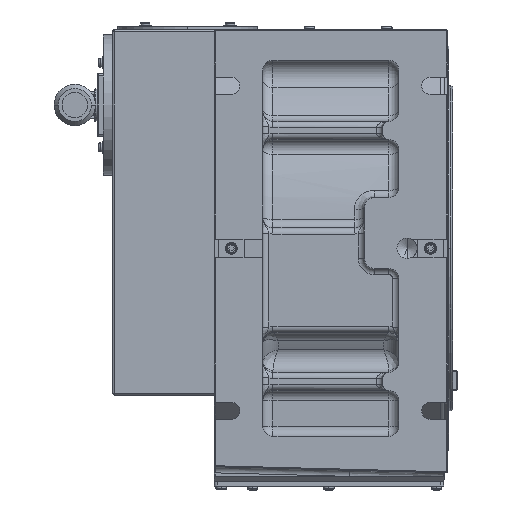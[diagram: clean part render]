
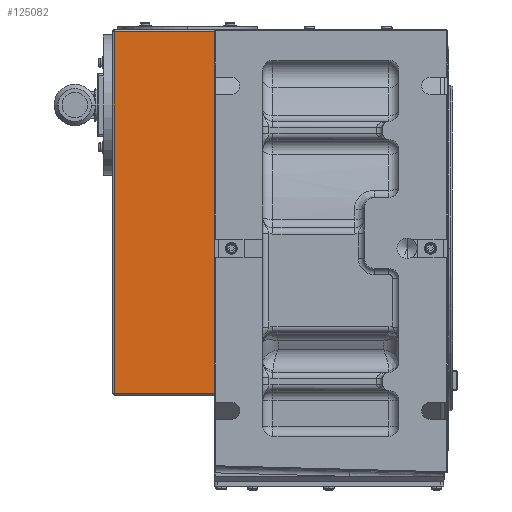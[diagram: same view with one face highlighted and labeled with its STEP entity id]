
A CAD part, front view. The second image highlights one B-rep face of the part: STEP entity #125082.
In plain terms, the highlighted planar face has unit normal (0, -1, 0).
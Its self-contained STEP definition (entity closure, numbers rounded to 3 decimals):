
#1747 = LINE ( 'NONE', #16184, #72102 ) ;
#3624 = CARTESIAN_POINT ( 'NONE',  ( -265., 230., -143. ) ) ;
#7660 = EDGE_CURVE ( 'NONE', #115943, #83340, #1747, .T. ) ;
#9714 = EDGE_CURVE ( 'NONE', #153304, #115943, #36032, .T. ) ;
#10952 = VECTOR ( 'NONE', #83282, 1000. ) ;
#16184 = CARTESIAN_POINT ( 'NONE',  ( -265., 230., 215. ) ) ;
#18023 = VECTOR ( 'NONE', #173469, 1000. ) ;
#18564 = AXIS2_PLACEMENT_3D ( 'NONE', #47911, #158240, #77627 ) ;
#24035 = VERTEX_POINT ( 'NONE', #122197 ) ;
#36032 = LINE ( 'NONE', #64021, #18023 ) ;
#40004 = CARTESIAN_POINT ( 'NONE',  ( -265., 230., 213. ) ) ;
#41276 = CARTESIAN_POINT ( 'NONE',  ( 58., 230., 215. ) ) ;
#41762 = CARTESIAN_POINT ( 'NONE',  ( 58., 230., -143. ) ) ;
#46134 = ORIENTED_EDGE ( 'NONE', *, *, #153579, .T. ) ;
#47911 = CARTESIAN_POINT ( 'NONE',  ( 60., 230., 215. ) ) ;
#64021 = CARTESIAN_POINT ( 'NONE',  ( 60., 230., 213. ) ) ;
#71526 = VECTOR ( 'NONE', #178670, 1000. ) ;
#72102 = VECTOR ( 'NONE', #100091, 1000. ) ;
#74129 = ORIENTED_EDGE ( 'NONE', *, *, #9714, .T. ) ;
#77627 = DIRECTION ( 'NONE',  ( 1., 0., 0. ) ) ;
#83282 = DIRECTION ( 'NONE',  ( 1., 0., 0. ) ) ;
#83340 = VERTEX_POINT ( 'NONE', #3624 ) ;
#100091 = DIRECTION ( 'NONE',  ( 0., 0., -1. ) ) ;
#110457 = LINE ( 'NONE', #41762, #10952 ) ;
#115943 = VERTEX_POINT ( 'NONE', #40004 ) ;
#122197 = CARTESIAN_POINT ( 'NONE',  ( 58., 230., -143. ) ) ;
#125082 = ADVANCED_FACE ( 'NONE', ( #131007 ), #147260, .F. ) ;
#127641 = EDGE_CURVE ( 'NONE', #83340, #24035, #110457, .T. ) ;
#131007 = FACE_OUTER_BOUND ( 'NONE', #143016, .T. ) ;
#138189 = CARTESIAN_POINT ( 'NONE',  ( 58., 230., 213. ) ) ;
#143016 = EDGE_LOOP ( 'NONE', ( #164916, #152876, #46134, #74129 ) ) ;
#147260 = PLANE ( 'NONE',  #18564 ) ;
#151531 = LINE ( 'NONE', #41276, #71526 ) ;
#152876 = ORIENTED_EDGE ( 'NONE', *, *, #127641, .T. ) ;
#153304 = VERTEX_POINT ( 'NONE', #138189 ) ;
#153579 = EDGE_CURVE ( 'NONE', #24035, #153304, #151531, .T. ) ;
#158240 = DIRECTION ( 'NONE',  ( 0., 1., 0. ) ) ;
#164916 = ORIENTED_EDGE ( 'NONE', *, *, #7660, .T. ) ;
#173469 = DIRECTION ( 'NONE',  ( -1., 0., 0. ) ) ;
#178670 = DIRECTION ( 'NONE',  ( 0., 0., 1. ) ) ;
